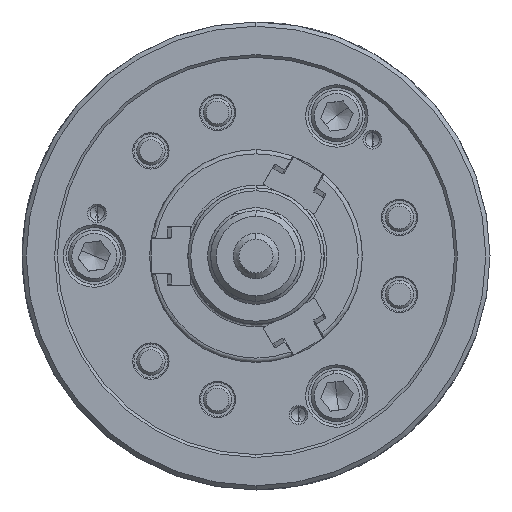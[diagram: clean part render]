
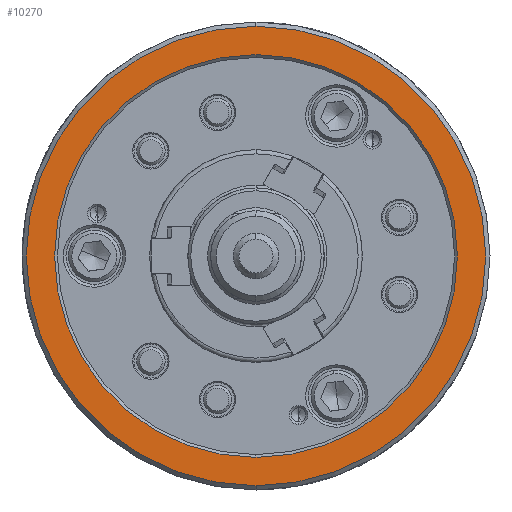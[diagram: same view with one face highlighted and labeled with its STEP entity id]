
A CAD part, left-side view. The second image highlights one B-rep face of the part: STEP entity #10270.
In plain terms, the highlighted planar face has unit normal (-1, 0, 0).
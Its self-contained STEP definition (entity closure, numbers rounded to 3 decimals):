
#5453 = CIRCLE ( 'NONE', #83549, 71. ) ;
#5515 = ORIENTED_EDGE ( 'NONE', *, *, #12534, .T. ) ;
#8038 = DIRECTION ( 'NONE',  ( 0., 0., -1. ) ) ;
#8934 = EDGE_CURVE ( 'NONE', #83471, #38240, #48581, .T. ) ;
#10270 = ADVANCED_FACE ( 'NONE', ( #88565, #19776 ), #13450, .F. ) ;
#12534 = EDGE_CURVE ( 'NONE', #38240, #83471, #5453, .T. ) ;
#13450 = PLANE ( 'NONE',  #45791 ) ;
#14539 = VERTEX_POINT ( 'NONE', #69529 ) ;
#16159 = ORIENTED_EDGE ( 'NONE', *, *, #27501, .F. ) ;
#18927 = EDGE_CURVE ( 'NONE', #14539, #22749, #27789, .T. ) ;
#19746 = CIRCLE ( 'NONE', #45802, 81. ) ;
#19776 = FACE_BOUND ( 'NONE', #75078, .T. ) ;
#21602 = CARTESIAN_POINT ( 'NONE',  ( -74., 0., 0. ) ) ;
#22749 = VERTEX_POINT ( 'NONE', #53319 ) ;
#24685 = AXIS2_PLACEMENT_3D ( 'NONE', #76625, #49463, #70268 ) ;
#27501 = EDGE_CURVE ( 'NONE', #22749, #14539, #19746, .T. ) ;
#27789 = CIRCLE ( 'NONE', #24685, 81. ) ;
#27899 = DIRECTION ( 'NONE',  ( 0., 0., -1. ) ) ;
#36084 = DIRECTION ( 'NONE',  ( 1., 0., 0. ) ) ;
#36980 = CARTESIAN_POINT ( 'NONE',  ( -74., 0., 71. ) ) ;
#38240 = VERTEX_POINT ( 'NONE', #36980 ) ;
#39928 = AXIS2_PLACEMENT_3D ( 'NONE', #76417, #56516, #84125 ) ;
#41990 = DIRECTION ( 'NONE',  ( 1., 0., 0. ) ) ;
#45791 = AXIS2_PLACEMENT_3D ( 'NONE', #69540, #74544, #27899 ) ;
#45802 = AXIS2_PLACEMENT_3D ( 'NONE', #50563, #36084, #71372 ) ;
#46928 = CARTESIAN_POINT ( 'NONE',  ( -74., 0., -71. ) ) ;
#48581 = CIRCLE ( 'NONE', #39928, 71. ) ;
#49463 = DIRECTION ( 'NONE',  ( 1., 0., 0. ) ) ;
#50563 = CARTESIAN_POINT ( 'NONE',  ( -74., 0., 0. ) ) ;
#53319 = CARTESIAN_POINT ( 'NONE',  ( -74., 0., -81. ) ) ;
#56516 = DIRECTION ( 'NONE',  ( 1., 0., 0. ) ) ;
#69529 = CARTESIAN_POINT ( 'NONE',  ( -74., 0., 81. ) ) ;
#69540 = CARTESIAN_POINT ( 'NONE',  ( -74., -81., 0. ) ) ;
#70268 = DIRECTION ( 'NONE',  ( 0., 0., -1. ) ) ;
#71372 = DIRECTION ( 'NONE',  ( 0., 0., -1. ) ) ;
#74544 = DIRECTION ( 'NONE',  ( 1., 0., 0. ) ) ;
#75078 = EDGE_LOOP ( 'NONE', ( #5515, #76158 ) ) ;
#75742 = ORIENTED_EDGE ( 'NONE', *, *, #18927, .F. ) ;
#76158 = ORIENTED_EDGE ( 'NONE', *, *, #8934, .T. ) ;
#76417 = CARTESIAN_POINT ( 'NONE',  ( -74., 0., 0. ) ) ;
#76625 = CARTESIAN_POINT ( 'NONE',  ( -74., 0., 0. ) ) ;
#83471 = VERTEX_POINT ( 'NONE', #46928 ) ;
#83549 = AXIS2_PLACEMENT_3D ( 'NONE', #21602, #41990, #8038 ) ;
#84125 = DIRECTION ( 'NONE',  ( 0., 0., -1. ) ) ;
#88565 = FACE_OUTER_BOUND ( 'NONE', #89224, .T. ) ;
#89224 = EDGE_LOOP ( 'NONE', ( #16159, #75742 ) ) ;
